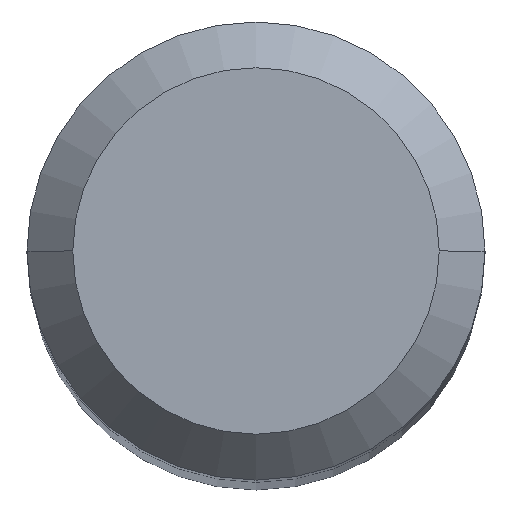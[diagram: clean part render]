
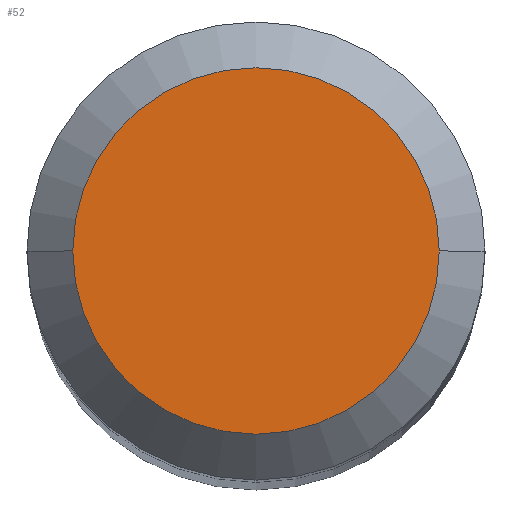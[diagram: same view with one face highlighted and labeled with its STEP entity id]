
A CAD part, top view. The second image highlights one B-rep face of the part: STEP entity #52.
In plain terms, the highlighted planar face has unit normal (0, 0, 1).
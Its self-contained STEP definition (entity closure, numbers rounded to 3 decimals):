
#39 = AXIS2_PLACEMENT_3D ( 'NONE', #322, #294, #101 ) ;
#52 = ADVANCED_FACE ( 'NONE', ( #473 ), #217, .T. ) ;
#79 = CARTESIAN_POINT ( 'NONE',  ( 0., 7.2, 0. ) ) ;
#101 = DIRECTION ( 'NONE',  ( -1., 0., 0. ) ) ;
#125 = ORIENTED_EDGE ( 'NONE', *, *, #463, .F. ) ;
#126 = DIRECTION ( 'NONE',  ( 1., 0., 0. ) ) ;
#162 = CIRCLE ( 'NONE', #39, 7.2 ) ;
#204 = ORIENTED_EDGE ( 'NONE', *, *, #349, .F. ) ;
#217 = PLANE ( 'NONE',  #305 ) ;
#263 = DIRECTION ( 'NONE',  ( -1., 0., 0. ) ) ;
#286 = VERTEX_POINT ( 'NONE', #375 ) ;
#289 = DIRECTION ( 'NONE',  ( 0., 0., -1. ) ) ;
#294 = DIRECTION ( 'NONE',  ( 0., 0., -1. ) ) ;
#305 = AXIS2_PLACEMENT_3D ( 'NONE', #79, #383, #126 ) ;
#315 = VERTEX_POINT ( 'NONE', #333 ) ;
#322 = CARTESIAN_POINT ( 'NONE',  ( 0., 0., 0. ) ) ;
#333 = CARTESIAN_POINT ( 'NONE',  ( -7.2, 0., 0. ) ) ;
#334 = CARTESIAN_POINT ( 'NONE',  ( 0., 0., 0. ) ) ;
#349 = EDGE_CURVE ( 'NONE', #315, #286, #162, .T. ) ;
#375 = CARTESIAN_POINT ( 'NONE',  ( 7.2, 0., 0. ) ) ;
#383 = DIRECTION ( 'NONE',  ( 0., 0., 1. ) ) ;
#399 = AXIS2_PLACEMENT_3D ( 'NONE', #334, #289, #263 ) ;
#426 = EDGE_LOOP ( 'NONE', ( #204, #125 ) ) ;
#463 = EDGE_CURVE ( 'NONE', #286, #315, #474, .T. ) ;
#473 = FACE_OUTER_BOUND ( 'NONE', #426, .T. ) ;
#474 = CIRCLE ( 'NONE', #399, 7.2 ) ;
